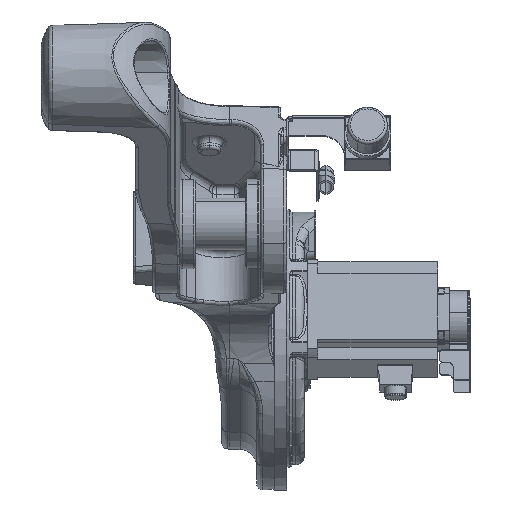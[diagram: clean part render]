
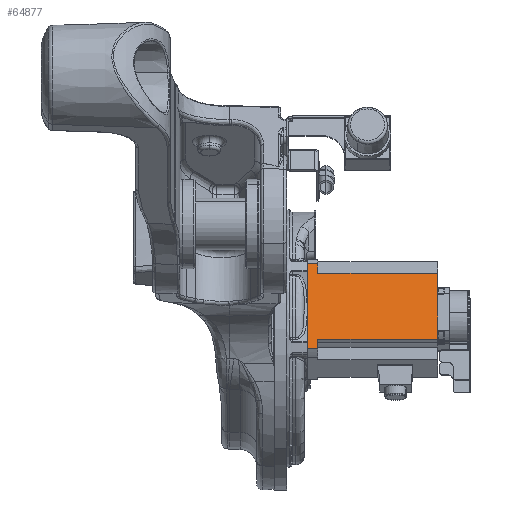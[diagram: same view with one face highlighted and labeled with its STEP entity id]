
A CAD part, left-side view. The second image highlights one B-rep face of the part: STEP entity #64877.
In plain terms, the highlighted planar face has unit normal (-0.966, 0, 0.259).
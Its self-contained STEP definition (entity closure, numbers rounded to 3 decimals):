
#64818=AXIS2_PLACEMENT_3D('Plane Axis2P3D',#64815,#64816,#64817) ;
#64793=CARTESIAN_POINT('Vertex',(262.085,-750.8,2949.388)) ;
#64796=CARTESIAN_POINT('Line Origine',(262.085,-759.8,2949.388)) ;
#64800=CARTESIAN_POINT('Vertex',(262.085,-768.8,2949.388)) ;
#64815=CARTESIAN_POINT('Axis2P3D Location',(222.567,-750.8,2801.904)) ;
#64820=CARTESIAN_POINT('Line Origine',(227.056,-872.55,2818.656)) ;
#64824=CARTESIAN_POINT('Vertex',(227.056,-768.8,2818.656)) ;
#64826=CARTESIAN_POINT('Vertex',(227.056,-976.3,2818.656)) ;
#64829=CARTESIAN_POINT('Line Origine',(242.326,-976.3,2875.646)) ;
#64833=CARTESIAN_POINT('Vertex',(257.596,-976.3,2932.636)) ;
#64836=CARTESIAN_POINT('Line Origine',(257.596,-872.55,2932.636)) ;
#64840=CARTESIAN_POINT('Vertex',(257.596,-768.8,2932.636)) ;
#64843=CARTESIAN_POINT('Line Origine',(259.841,-768.8,2941.012)) ;
#64848=CARTESIAN_POINT('Line Origine',(242.326,-750.8,2875.646)) ;
#64852=CARTESIAN_POINT('Vertex',(222.567,-750.8,2801.904)) ;
#64855=CARTESIAN_POINT('Line Origine',(222.567,-759.8,2801.904)) ;
#64859=CARTESIAN_POINT('Vertex',(222.567,-768.8,2801.904)) ;
#64862=CARTESIAN_POINT('Line Origine',(224.811,-768.8,2810.28)) ;
#64797=DIRECTION('Vector Direction',(0.,-1.,0.)) ;
#64816=DIRECTION('Axis2P3D Direction',(0.966,0.,-0.259)) ;
#64817=DIRECTION('Axis2P3D XDirection',(0.259,0.,0.966)) ;
#64821=DIRECTION('Vector Direction',(0.,-1.,0.)) ;
#64830=DIRECTION('Vector Direction',(0.259,0.,0.966)) ;
#64837=DIRECTION('Vector Direction',(0.,-1.,0.)) ;
#64844=DIRECTION('Vector Direction',(0.259,0.,0.966)) ;
#64849=DIRECTION('Vector Direction',(0.259,0.,0.966)) ;
#64856=DIRECTION('Vector Direction',(0.,-1.,0.)) ;
#64863=DIRECTION('Vector Direction',(0.259,0.,0.966)) ;
#64798=VECTOR('Line Direction',#64797,1.) ;
#64822=VECTOR('Line Direction',#64821,1.) ;
#64831=VECTOR('Line Direction',#64830,1.) ;
#64838=VECTOR('Line Direction',#64837,1.) ;
#64845=VECTOR('Line Direction',#64844,1.) ;
#64850=VECTOR('Line Direction',#64849,1.) ;
#64857=VECTOR('Line Direction',#64856,1.) ;
#64864=VECTOR('Line Direction',#64863,1.) ;
#64868=ORIENTED_EDGE('',*,*,#64828,.T.) ;
#64869=ORIENTED_EDGE('',*,*,#64835,.F.) ;
#64870=ORIENTED_EDGE('',*,*,#64842,.F.) ;
#64871=ORIENTED_EDGE('',*,*,#64847,.F.) ;
#64872=ORIENTED_EDGE('',*,*,#64802,.F.) ;
#64873=ORIENTED_EDGE('',*,*,#64854,.T.) ;
#64874=ORIENTED_EDGE('',*,*,#64861,.T.) ;
#64875=ORIENTED_EDGE('',*,*,#64866,.F.) ;
#64877=ADVANCED_FACE('071_MotorFrange_J4_MC1700DL-02.1\\024_J2_moter_assy.1\\MDMU602S2V5.1',(#64876),#64819,.F.) ;
#64802=EDGE_CURVE('',#64794,#64801,#64799,.T.) ;
#64828=EDGE_CURVE('',#64825,#64827,#64823,.T.) ;
#64835=EDGE_CURVE('',#64834,#64827,#64832,.F.) ;
#64842=EDGE_CURVE('',#64841,#64834,#64839,.T.) ;
#64847=EDGE_CURVE('',#64801,#64841,#64846,.F.) ;
#64854=EDGE_CURVE('',#64794,#64853,#64851,.F.) ;
#64861=EDGE_CURVE('',#64853,#64860,#64858,.T.) ;
#64866=EDGE_CURVE('',#64825,#64860,#64865,.F.) ;
#64867=EDGE_LOOP('',(#64868,#64869,#64870,#64871,#64872,#64873,#64874,#64875)) ;
#64876=FACE_OUTER_BOUND('',#64867,.T.) ;
#64799=LINE('Line',#64796,#64798) ;
#64823=LINE('Line',#64820,#64822) ;
#64832=LINE('Line',#64829,#64831) ;
#64839=LINE('Line',#64836,#64838) ;
#64846=LINE('Line',#64843,#64845) ;
#64851=LINE('Line',#64848,#64850) ;
#64858=LINE('Line',#64855,#64857) ;
#64865=LINE('Line',#64862,#64864) ;
#64819=PLANE('',#64818) ;
#64794=VERTEX_POINT('',#64793) ;
#64801=VERTEX_POINT('',#64800) ;
#64825=VERTEX_POINT('',#64824) ;
#64827=VERTEX_POINT('',#64826) ;
#64834=VERTEX_POINT('',#64833) ;
#64841=VERTEX_POINT('',#64840) ;
#64853=VERTEX_POINT('',#64852) ;
#64860=VERTEX_POINT('',#64859) ;
